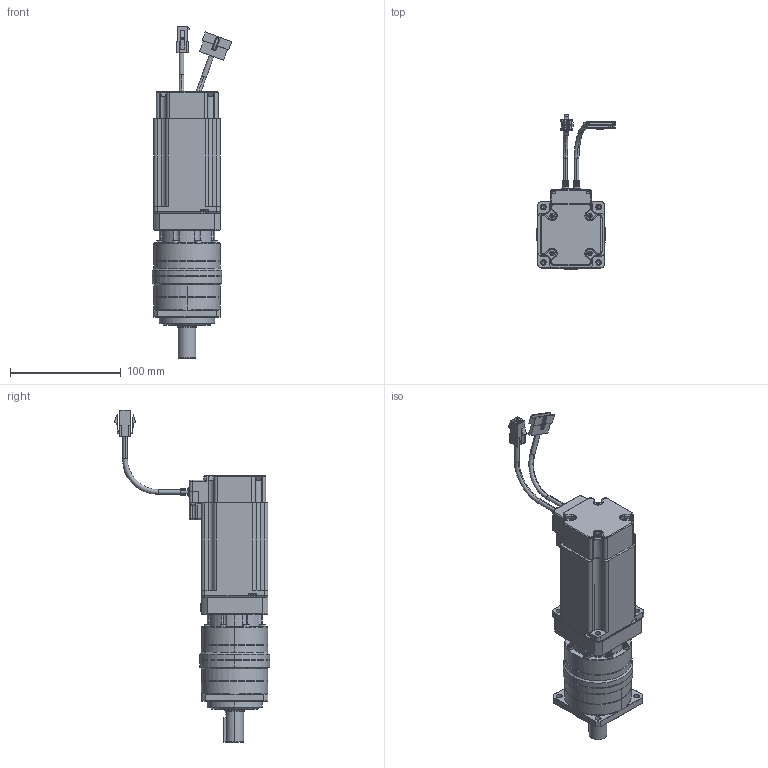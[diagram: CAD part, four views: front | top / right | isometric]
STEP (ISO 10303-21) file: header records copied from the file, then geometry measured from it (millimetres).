
FILE_DESCRIPTION (( 'STEP AP203' ), '1' );
FILE_NAME ('Ezi-SERVO PG-PR-60L-85-PN15~50 131204.STEP', '2013-12-04T02:37:30', ( '' ), ( '' ), 'SwSTEP 2.0', 'SolidWorks 2012', '' );
FILE_SCHEMA (( 'CONFIG_CONTROL_DESIGN' ));
Length unit declared in the file: millimetre
Products named in the file (14): Ezi-SERVO PG-PR-60L-85-PN15~50 131204; ST56 2ST; MainM3-screw12-1-2_1; MainM3-screw11-1-2_1; MainM3-screw10-1-2_1; MainM3-screw9-1-2_1; MainM3-screw8-1-2_1; MainM3-screw7-1-2_1; Main60_Encoder_Plate-1-2_1; MainEZSV_60_Encoder_Cover-1-2_1; MainEZSV_60_Cable_Cover-1-2_1; MainEncoder_Cable_60-1-2_1; MainPower_Cable_60-1-2_1; MainEzM-60L-1_1
Assembly tree (13 placements, depth 2):
  Ezi-SERVO PG-PR-60L-85-PN15~50 131204
    MainEzM-60L-1_1
    MainPower_Cable_60-1-2_1
    MainEncoder_Cable_60-1-2_1
    MainEZSV_60_Cable_Cover-1-2_1
    MainEZSV_60_Encoder_Cover-1-2_1
    Main60_Encoder_Plate-1-2_1
    MainM3-screw7-1-2_1
    MainM3-screw8-1-2_1
    MainM3-screw9-1-2_1
    MainM3-screw10-1-2_1
    MainM3-screw11-1-2_1
    MainM3-screw12-1-2_1
    ST56 2ST
Bounding box: 71.99 x 140.14 x 300 mm (x, y, z)
Volume: 579730.4 mm3; surface area: 100324.6 mm2
Topology: 13 solids, 13 shells, 1429 faces, 3764 edges, 2398 vertices
Faces by surface type: plane 718, cylinder 463, cone 128, torus 57, bspline 49, sphere 14
Entity records: 49089 total; most frequent: CARTESIAN_POINT 12737, ORIENTED_EDGE 7360, DIRECTION 7162, EDGE_CURVE 3680, AXIS2_PLACEMENT_3D 2577, VERTEX_POINT 2388, LINE 2008, VECTOR 2008
